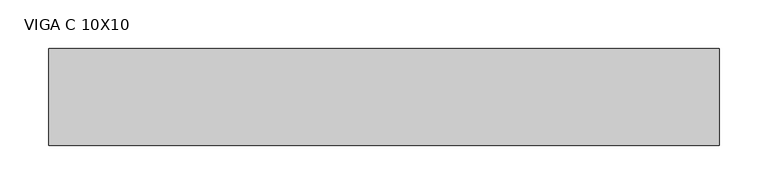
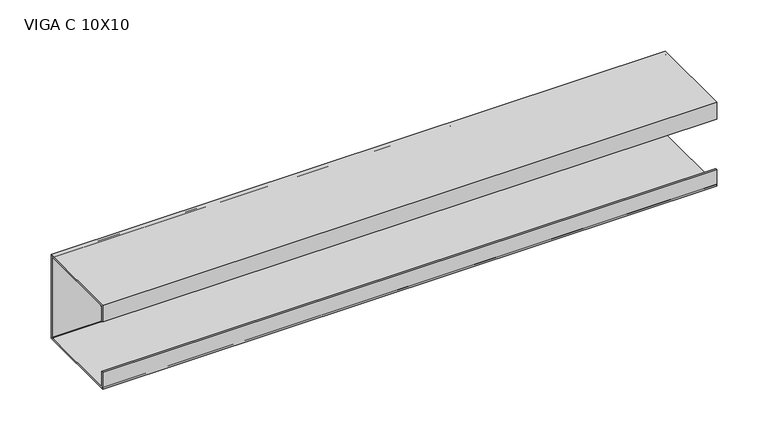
"""IFC4 building model written with IfcOpenShell, lengths in millimetres: beam geometry, VIGA PERFIL C AÇO : VIGA C 10X10."""

from ifc_helpers import new_model, si_unit, point, frame, frame_2d, origin, place, context, project, spatial, polyline, circle_curve, trimmed, segment, composite_curve, outline, extrude, source, transform, mapped, element, save


def viga_c_10x10_c6adb8ef(model_context):
    return source(origin(), model_context, "Body", "SweptSolid", [
        extrude(outline(polyline([(9.2, -50.0), (-90.8, -50.0), (-90.8, -30.0), (-88.9, -30.0), (-88.9, -48.1), (7.3, -48.1), (7.3, 48.1), (-88.9, 48.1), (-88.9, 30.0), (-90.8, 30.0), (-90.8, 50.0), (9.2, 50.0), (9.2, -50.0)])), frame((-378.5, 0.0, 0.0), z_axis=(1.0, 0.0, 0.0), x_axis=(0.0, 1.0, 0.0)), (0.0, 0.0, 1.0), 691.0),
        extrude(outline(composite_curve([segment(trimmed(circle_curve(frame_2d((5.4, -46.2)), 3.8), [point((9.2, -46.2))], [point((5.4, -50.0))], False, "CARTESIAN"), True, "CONTINUOUS"), segment(polyline([(5.4, -50.0), (-87.0, -50.0)]), True, "CONTINUOUS"), segment(trimmed(circle_curve(frame_2d((-87.0, -46.2)), 3.8), [point((-87.0, -50.0))], [point((-90.8, -46.2))], False, "CARTESIAN"), True, "CONTINUOUS"), segment(polyline([(-90.8, -46.2), (-90.8, -30.0), (-88.9, -30.0), (-88.9, -46.2)]), True, "CONTINUOUS"), segment(trimmed(circle_curve(frame_2d((-87.0, -46.2)), 1.9), [point((-88.9, -46.2))], [point((-87.0, -48.1))], True, "CARTESIAN"), True, "CONTINUOUS"), segment(polyline([(-87.0, -48.1), (5.4, -48.1)]), True, "CONTINUOUS"), segment(trimmed(circle_curve(frame_2d((5.4, -46.2)), 1.9), [point((5.4, -48.1))], [point((7.3, -46.2))], True, "CARTESIAN"), True, "CONTINUOUS"), segment(polyline([(7.3, -46.2), (7.3, 46.2)]), True, "CONTINUOUS"), segment(trimmed(circle_curve(frame_2d((5.4, 46.2)), 1.9), [point((7.3, 46.2))], [point((5.4, 48.1))], True, "CARTESIAN"), True, "CONTINUOUS"), segment(polyline([(5.4, 48.1), (-87.0, 48.1)]), True, "CONTINUOUS"), segment(trimmed(circle_curve(frame_2d((-87.0, 46.2)), 1.9), [point((-87.0, 48.1))], [point((-88.9, 46.2))], True, "CARTESIAN"), True, "CONTINUOUS"), segment(polyline([(-88.9, 46.2), (-88.9, 30.0), (-90.8, 30.0), (-90.8, 46.2)]), True, "CONTINUOUS"), segment(trimmed(circle_curve(frame_2d((-87.0, 46.2)), 3.8), [point((-90.8, 46.2))], [point((-87.0, 50.0))], False, "CARTESIAN"), True, "CONTINUOUS"), segment(polyline([(-87.0, 50.0), (5.4, 50.0)]), True, "CONTINUOUS"), segment(trimmed(circle_curve(frame_2d((5.4, 46.2)), 3.8), [point((5.4, 50.0))], [point((9.2, 46.2))], False, "CARTESIAN"), True, "CONTINUOUS"), segment(polyline([(9.2, 46.2), (9.2, -46.2)]), True, "CONTINUOUS")], self_intersect=False)), frame((-378.5, 0.0, 0.0), z_axis=(1.0, 0.0, 0.0), x_axis=(0.0, 1.0, 0.0)), (0.0, 0.0, 1.0), 691.0),
    ])


if __name__ == "__main__":
    model = new_model("IFC4")
    model_context = context("Model", 3, world=origin())
    ifc_project = project(units=[si_unit("LENGTHUNIT", "METRE", prefix="MILLI")], contexts=[model_context])
    site = spatial("IfcSite", under=ifc_project)
    building = spatial("IfcBuilding", under=site)
    placement = place(None, origin())
    viga_c_10x10_shape = viga_c_10x10_c6adb8ef(model_context)
    element("IfcBeam", 1, ObjectType="VIGA PERFIL C AÇO : VIGA C 10X10", at=placement, inside=building, context=model_context, shape_type="MappedRepresentation", body=[
        mapped(viga_c_10x10_shape, transform((0.0, 0.0, 0.0), x_axis=(1.0, 0.0, 0.0), y_axis=(0.0, 1.0, 0.0), z_axis=(0.0, 0.0, 1.0))),
    ])
    save(model, "model.ifc")
